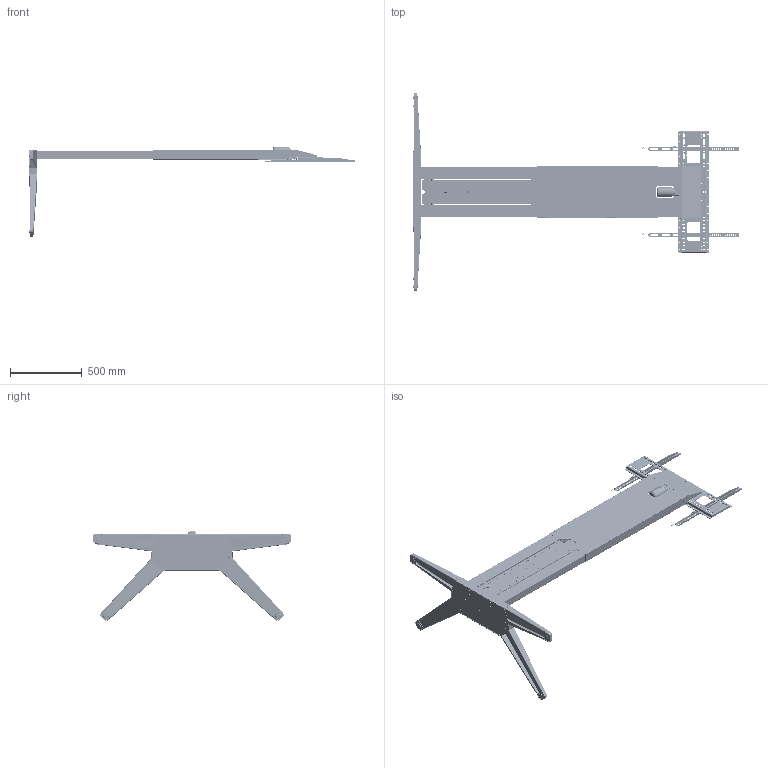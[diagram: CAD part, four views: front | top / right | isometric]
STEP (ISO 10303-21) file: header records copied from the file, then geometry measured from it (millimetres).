
FILE_DESCRIPTION((''),'2;1');
FILE_NAME('F50_FREESTANDING_MAX_ASM_ASM','2022-02-11T11:20:07',('103247'),('捷昌驱动'),'CREO PARAMETRIC BY PTC INC, 2018100','CREO PARAMETRIC BY PTC INC, 2018100','');
FILE_SCHEMA(('CONFIG_CONTROL_DESIGN'));
Products named in the file (100): RR05-304_TOP_BRACKET_42_4; JS36DR-2467_1_1_9_1; JS36DR-1576_1_1_3_1; RR05-251_LEG_TOP1_ASM_1_ASM_1_ASM; JS36DR-0142_1_1_1_1; JS36DR-0141_1_1_1_1; JCSP-0505_1_1_1_1; RR05-251_LEG_TOP2_ASM_1_ASM_1_ASM; RR05-251_LEG_TOP3_ASM_1_ASM_1_ASM; JS36DR-2366_1_1_5_1; JS36DS-0069_1_1_5_1; JS36DS-0070_1_1_4_1; JC35TS-1850_1_1_2_1; JSSY-0115_1_1_1_1; JC35TS-1730_1_1_1_1; JCSP-0731_1_1_3_1; JCSP-0722_1_1_2_1; RR05-251_LEG_TOP4_ASM_27_ASM_1_ASM; RR05-251_LEG_TOP5_ASM_12_ASM_1_ASM; RR05-306_MONITOR_BRACKET_26_15; RR05-204_TOP_CAP_9_9; ASM0001_ASM_2_ASM; RR05-203_REAR_TOP_COVER_16_7; RR05-201_FRONT_TOP_COVER_25_3; NS1_3_6_ASM_1_ASM_1_1_2_3_ASM_2; NS1_3_6_ASM_1_1_ASM_1_ASM_1_A_1_ASM; 0000210278_ASM_1_ASM_1_ASM_1_1__ASM; 0000210276_ASM_1_ASM_1_ASM_1_1__ASM; JCB35NS1-A_ASM_1_ASM_1_1_ASM_1__ASM; JC35TS-1804_1_1_1_8_1; ______17135_1_1_1_1_1_1; ______17135_1_2_1_1_1_1; ______17135_1_3_1_1_1_1; ______17135_1_4_1_1_1_1; ______17135_1_5_1_1_1_1; ______17135_1_ASM_1_1_ASM_1_ASM_ASM; JC35TS-1807_1_ASM_1_1_ASM_1_ASM_ASM; JC35TS-1806_1_1_1_1_1; JC35TS-1805_1_1_1_1_1; JC35TF-0137_1_1_1_2_1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
Assembly tree (163 placements, depth 12):
  F50_FREESTANDING_MAX_ASM_ASM
    F50_FREESTANDING_MAX_ASM_1_ASM
      RR05-150_MAIN_ASM_ASM_103_ASM_1_ASM
        RR05-250_TOP_ASM_ASM_61_ASM_5_ASM
          RR05-251_LEG_TOP5_ASM_12_ASM_1_ASM
            RR05-251_LEG_TOP4_ASM_27_ASM_1_ASM
              RR05-304_TOP_BRACKET_42_4
              RR05-251_LEG_TOP2_ASM_1_ASM_1_ASM
                RR05-251_LEG_TOP1_ASM_1_ASM_1_ASM
                  JS36DR-2467_1_1_9_1
                  JS36DR-1576_1_1_3_1
                JS36DR-0142_1_1_1_1  x2
                JS36DR-0141_1_1_1_1  x2
                JCSP-0505_1_1_1_1  x2
              RR05-251_LEG_TOP3_ASM_1_ASM_1_ASM
                RR05-251_LEG_TOP1_ASM_1_ASM_1_ASM
                  JS36DR-2467_1_1_9_1
                  JS36DR-1576_1_1_3_1
                JCSP-0505_1_1_1_1  x2
                JS36DR-0141_1_1_1_1  x2
                JS36DR-0142_1_1_1_1  x2
              JS36DR-2366_1_1_5_1
              JS36DS-0069_1_1_5_1
              JS36DS-0070_1_1_4_1
              JC35TS-1850_1_1_2_1
              JSSY-0115_1_1_1_1
              JC35TS-1730_1_1_1_1
              JCSP-0731_1_1_3_1
              JCSP-0722_1_1_2_1  x10
          ASM0001_ASM_2_ASM
            RR05-306_MONITOR_BRACKET_26_15
            RR05-204_TOP_CAP_9_9
          RR05-203_REAR_TOP_COVER_16_7
          RR05-201_FRONT_TOP_COVER_25_3
          RR05-300_MONITOR_CHASSIS_ASM_12_ASM
            2_ASM_1_1_ASM_1_ASM_1_ASM
              JC35TS-T215007_ASM_1_ASM_1_1_AS_ASM
                JCB35NS1-A_ASM_1_ASM_1_1_ASM_1__ASM
                  0000210276_ASM_1_ASM_1_ASM_1_1__ASM
                JC35TS-1804_1_1_1_8_1
                JC35TS-T191184_ASM_1_ASM_1_1_AS_ASM  x2
                  JC35TS-1807_1_ASM_1_1_ASM_1_ASM_ASM
                  JC35TS-1806_1_1_1_1_1
                  JC35TS-1805_1_1_1_1_1
                  JC35TF-0137_1_1_1_2_1
                  JCSP-0412_1_1_1_1_1
                  JCSP-0474_1_1_1_1_1
        RR05-252_LEG_BOT_ASM_65_ASM_3_ASM
          RR05-252_LEG_BOT4_ASM_2_ASM_1_ASM
            RR05-252_LEG_BOT3_ASM_1_ASM_1_ASM
              RR05-252_LEG_BOT2_ASM_1_ASM_1_ASM
                RR05-252_LEG_BOT1_ASM_1_ASM_1_ASM
                  JS36DR-2472_AF0_1_1_2_1
                JC35PJ-0476_1_1_1_1  x2
              JC35TS-0166_1_1_2_1
            JS36DR-0304_1_1_1_1
            JCSP-0506_1_1_1_1  x4
          RR05-253_LEG_BOT4_ASM_1_ASM_1_ASM
            RR05-253_LEG_BOT3_ASM_1_ASM_1_ASM
              RR05-253_LEG_BOT2_ASM_1_ASM_1_ASM
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Bounding box: 2279.53 x 1380.36 x 629.32 mm (x, y, z)
Volume: 6610730.8 mm3; surface area: 7445565 mm2
Topology: 131 solids, 152 shells, 8078 faces, 22649 edges, 14914 vertices
Faces by surface type: plane 3574, cylinder 3070, bspline 553, cone 437, torus 284, extrusion 116, sphere 44
Entity records: 217287 total; most frequent: CARTESIAN_POINT 86409, ORIENTED_EDGE 27456, DIRECTION 26292, EDGE_CURVE 13765, VERTEX_POINT 9042, AXIS2_PLACEMENT_3D 9020, VECTOR 8252, LINE 8148
